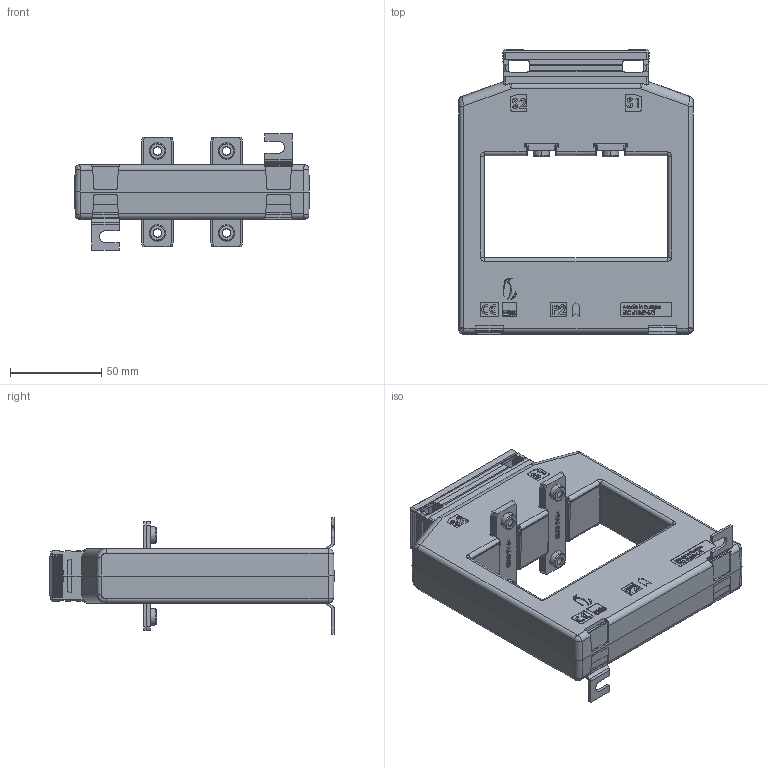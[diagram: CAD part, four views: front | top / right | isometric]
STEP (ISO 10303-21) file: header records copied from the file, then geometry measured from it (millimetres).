
FILE_DESCRIPTION (( 'STEP AP214' ), '1' );
FILE_NAME ('ASK105.3_kpl.STEP', '2023-11-24T20:11:11', ( '' ), ( '' ), 'SwSTEP 2.0', 'SolidWorks 2022', '' );
FILE_SCHEMA (( 'AUTOMOTIVE_DESIGN' ));
Length unit declared in the file: millimetre
Products named in the file (1): ASK105.3_kpl
Bounding box: 129 x 156.13 x 64 mm (x, y, z)
Volume: 378863.6 mm3; surface area: 64613.2 mm2
Topology: 7 solids, 9 shells, 1974 faces, 5190 edges, 3378 vertices
Faces by surface type: plane 1137, bspline 486, cylinder 212, cone 64, torus 63, sphere 12
Entity records: 97833 total; most frequent: CARTESIAN_POINT 39338, ORIENTED_EDGE 10372, DIRECTION 7515, EDGE_CURVE 5186, LINE 3507, VECTOR 3507, VERTEX_POINT 3378, EDGE_LOOP 2144
